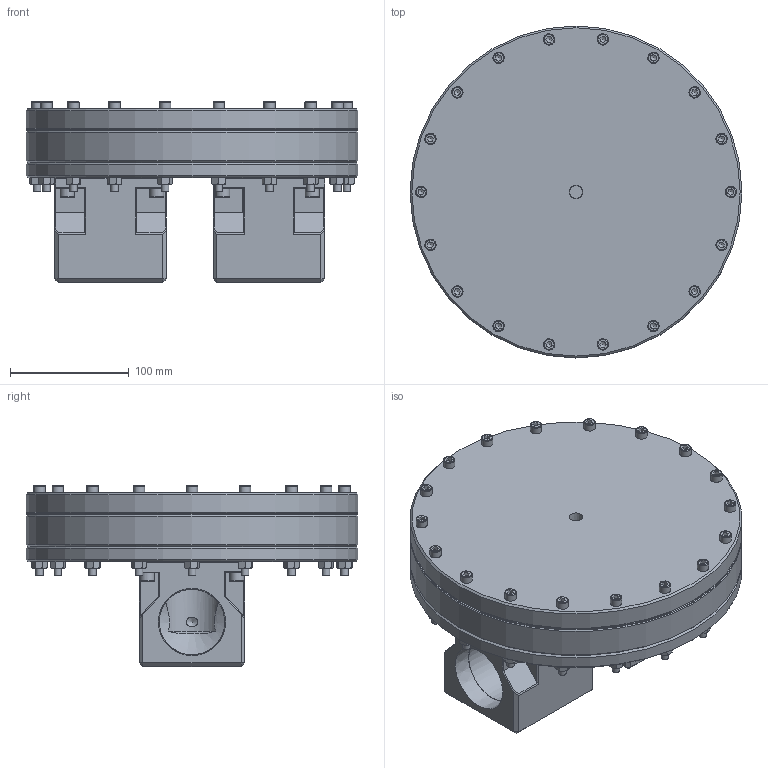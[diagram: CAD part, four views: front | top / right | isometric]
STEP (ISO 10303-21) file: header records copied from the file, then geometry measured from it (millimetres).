
FILE_DESCRIPTION(/* description */ (''),/* implementation_level */ '2;1');
FILE_NAME(/* name */ 'Z:\Models\NL_NLB Series\EB10NLB16\Other Drawings\BD12A External Assembly.stp',/* time_stamp */ '2018-04-03T12:07:54-04:00',/* author */ ('CADuser'),/* organization */ (''),/* preprocessor_version */ 'ST-DEVELOPER v16.13',/* originating_system */ 'Autodesk Inventor 2018',/* authorisation */ '');
FILE_SCHEMA (('AUTOMOTIVE_DESIGN { 1 0 10303 214 3 1 1 }'));
Length unit declared in the file: inch
Products named in the file (1): BD12A Assembly_Shrinkwrap_1
Bounding box: 279.4 x 279.4 x 152.73 mm (x, y, z)
Volume: 3582827.5 mm3; surface area: 764567 mm2
Topology: 50 solids, 50 shells, 1237 faces, 2949 edges, 1860 vertices
Faces by surface type: plane 571, cone 324, cylinder 272, torus 70
Full cylindrical faces by diameter (mm): 6.35 x114, 6.528 x72, 6.782 x8, 7.938 x8, 8.204 x8, 8.433 x2, 9.525 x18, 10.719 x2, 11.913 x8, 48.59 x2, 50.8 x2, 55.169 x2, 58.268 x2, 63.195 x2, 92.329 x1, 99.644 x1, 231.8 x1, 238.887 x1, 244.475 x2, 251.536 x2, 279.4 x4
Entity records: 33947 total; most frequent: CARTESIAN_POINT 7489, DIRECTION 5070, ORIENTED_EDGE 4644, EDGE_CURVE 2322, AXIS2_PLACEMENT_3D 2135, EDGE_LOOP 2086, VERTEX_POINT 1670, STYLED_ITEM 1285
